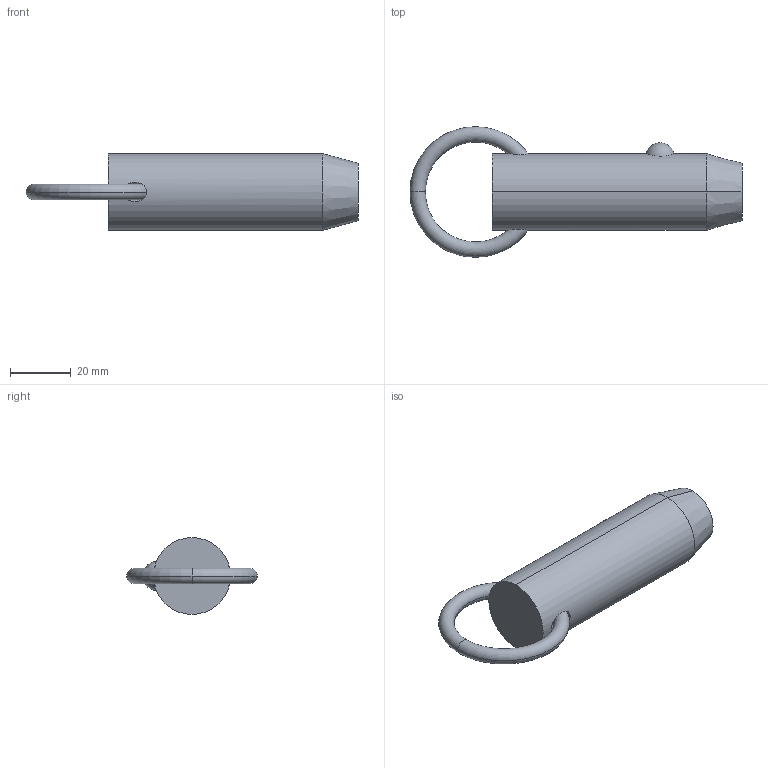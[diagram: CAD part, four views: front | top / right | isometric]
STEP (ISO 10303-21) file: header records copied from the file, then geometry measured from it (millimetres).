
FILE_DESCRIPTION (( 'STEP AP203' ), '1' );
FILE_NAME ('33010.W1015.step', '2024-11-01T10:47:19', ( '' ), ( '' ), 'SwSTEP 2.0', 'SolidWorks 2019', '' );
FILE_SCHEMA (( 'CONFIG_CONTROL_DESIGN' ));
Length unit declared in the file: millimetre
Products named in the file (3): Part1_33010.W1015; 33010.W1015; Part2_33010.W1015
Assembly tree (2 placements, depth 2):
  33010.W1015
    Part1_33010.W1015
    Part2_33010.W1015
Bounding box: 109.68 x 43.18 x 25.4 mm (x, y, z)
Volume: 42164.5 mm3; surface area: 9711.7 mm2
Topology: 2 solids, 2 shells, 18 faces, 37 edges, 22 vertices
Faces by surface type: torus 8, plane 4, sphere 2, cone 2, cylinder 2
Entity records: 975 total; most frequent: CARTESIAN_POINT 280, DIRECTION 100, ORIENTED_EDGE 74, AXIS2_PLACEMENT_3D 48, EDGE_CURVE 37, PERSON_AND_ORGANIZATION 26, CIRCLE 25, VERTEX_POINT 22
